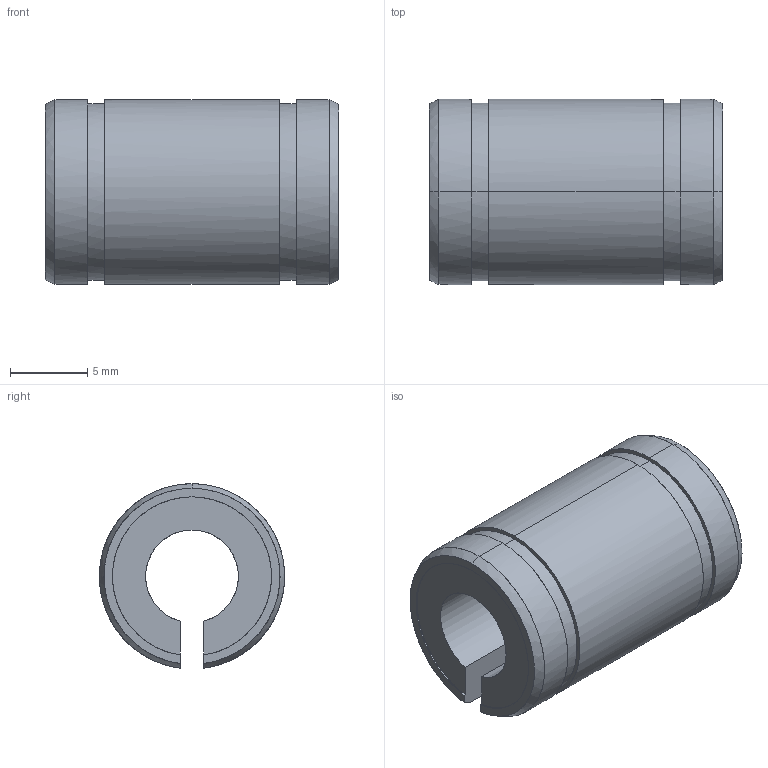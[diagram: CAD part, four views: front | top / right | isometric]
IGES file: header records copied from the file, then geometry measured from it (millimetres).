
Global section: file name: No Iges File Name specified; native system: AutoDesk Inventor R10; preprocessor: AutoDesk Inventor Iges Exporter R10; author: No Author specified; organization: No Organization specified; date: 20101208.095643; units: millimetre
Bounding box: 19 x 11.99 x 11.95 mm (x, y, z)
Surface area: 1308.4 mm2 (no closed solid volume)
Topology: 0 solids, 0 shells, 30 faces, 244 edges, 244 vertices
Faces by surface type: bspline 30
